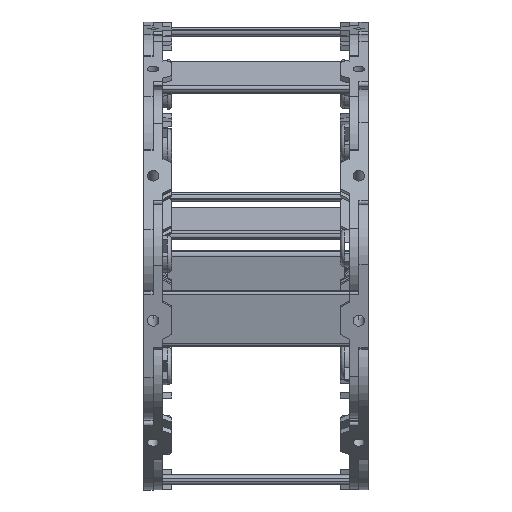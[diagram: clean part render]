
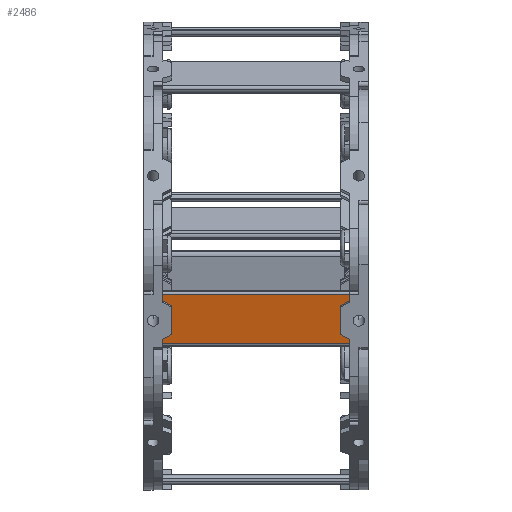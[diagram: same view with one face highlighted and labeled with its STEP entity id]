
A CAD part, front view. The second image highlights one B-rep face of the part: STEP entity #2486.
In plain terms, the highlighted planar face has unit normal (0, -0.97, -0.244) as drawn and (1, 0, 0) by its records, which use the part's own axes.
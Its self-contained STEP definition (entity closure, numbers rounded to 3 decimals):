
#2447=CARTESIAN_POINT('',(48.742,50.631,0.0));
#2448=DIRECTION('',(1.0,0.0,0.0));
#2449=DIRECTION('',(0.0,0.0,-1.0));
#2450=AXIS2_PLACEMENT_3D('',#2447,#2448,#2449);
#2451=PLANE('',#2450);
#2452=CARTESIAN_POINT('',(48.742,50.631,100.0));
#2453=VERTEX_POINT('',#2452);
#2454=CARTESIAN_POINT('',(48.742,23.635,100.0));
#2455=VERTEX_POINT('',#2454);
#2456=CARTESIAN_POINT('',(48.742,50.631,100.0));
#2457=DIRECTION('',(0.0,-1.0,0.0));
#2458=VECTOR('',#2457,26.996);
#2459=LINE('',#2456,#2458);
#2460=EDGE_CURVE('',#2453,#2455,#2459,.T.);
#2461=ORIENTED_EDGE('',*,*,#2460,.T.);
#2462=CARTESIAN_POINT('',(48.742,23.635,0.0));
#2463=VERTEX_POINT('',#2462);
#2464=CARTESIAN_POINT('',(48.742,23.635,0.0));
#2465=DIRECTION('',(0.0,0.0,1.0));
#2466=VECTOR('',#2465,100.0);
#2467=LINE('',#2464,#2466);
#2468=EDGE_CURVE('',#2463,#2455,#2467,.T.);
#2469=ORIENTED_EDGE('',*,*,#2468,.F.);
#2470=CARTESIAN_POINT('',(48.742,50.631,0.0));
#2471=VERTEX_POINT('',#2470);
#2472=CARTESIAN_POINT('',(48.742,23.635,0.0));
#2473=DIRECTION('',(0.0,1.0,0.0));
#2474=VECTOR('',#2473,26.996);
#2475=LINE('',#2472,#2474);
#2476=EDGE_CURVE('',#2463,#2471,#2475,.T.);
#2477=ORIENTED_EDGE('',*,*,#2476,.T.);
#2478=CARTESIAN_POINT('',(48.742,50.631,0.0));
#2479=DIRECTION('',(0.0,0.0,1.0));
#2480=VECTOR('',#2479,100.0);
#2481=LINE('',#2478,#2480);
#2482=EDGE_CURVE('',#2471,#2453,#2481,.T.);
#2483=ORIENTED_EDGE('',*,*,#2482,.T.);
#2484=EDGE_LOOP('',(#2461,#2469,#2477,#2483));
#2485=FACE_OUTER_BOUND('',#2484,.T.);
#2486=ADVANCED_FACE('',(#2485),#2451,.T.);
